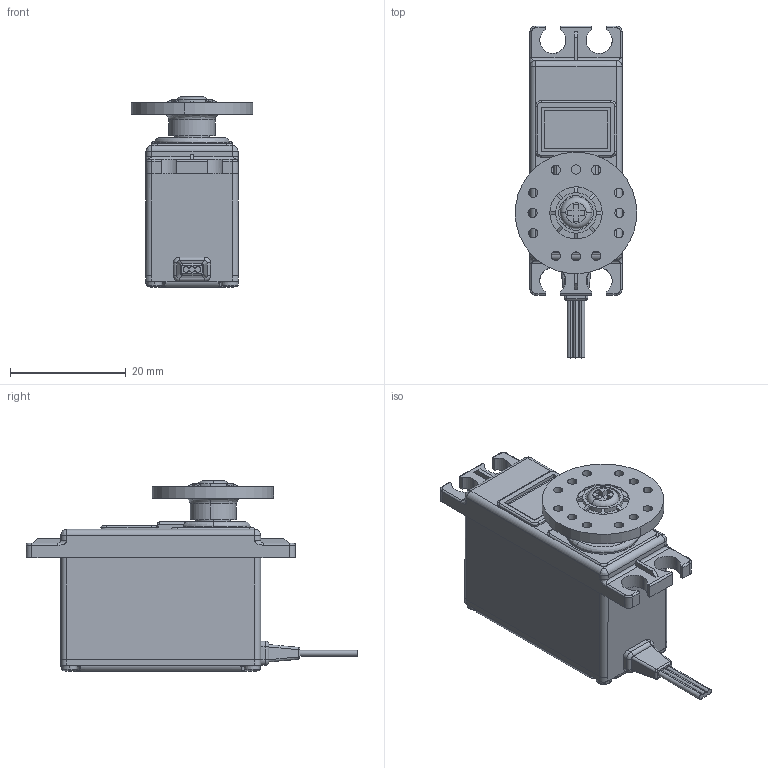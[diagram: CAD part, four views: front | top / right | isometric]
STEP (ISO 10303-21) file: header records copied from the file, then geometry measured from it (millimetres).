
FILE_DESCRIPTION (( 'STEP AP203' ), '1' );
FILE_NAME ('AD1HA(3D).STEP', '2022-12-06T01:15:57', ( '' ), ( '' ), 'SwSTEP 2.0', 'SolidWorks 2022', '' );
FILE_SCHEMA (( 'CONFIG_CONTROL_DESIGN' ));
Length unit declared in the file: millimetre
Products named in the file (4): AD1HA; SCREW M3x8; AD1HA(3D); HORN
Assembly tree (3 placements, depth 2):
  AD1HA(3D)
    AD1HA
    HORN
    SCREW M3x8
Bounding box: 20.97 x 57.3 x 32.9 mm (x, y, z)
Volume: 14942.6 mm3; surface area: 5577 mm2
Topology: 3 solids, 3 shells, 426 faces, 1072 edges, 667 vertices
Faces by surface type: cylinder 189, plane 149, bspline 62, cone 20, torus 6
Entity records: 16440 total; most frequent: CARTESIAN_POINT 6440, ORIENTED_EDGE 2144, DIRECTION 1809, EDGE_CURVE 1072, AXIS2_PLACEMENT_3D 668, VERTEX_POINT 667, LINE 473, VECTOR 473
